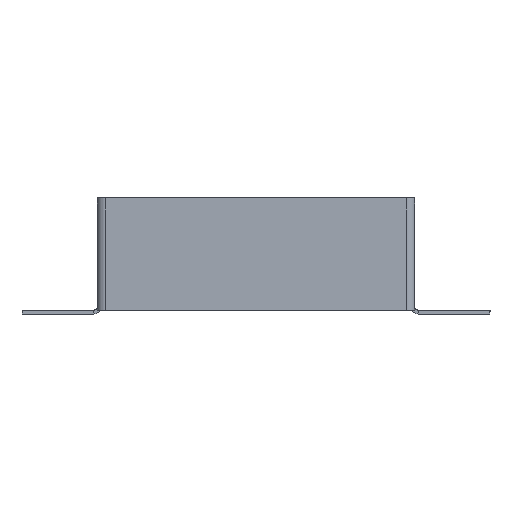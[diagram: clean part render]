
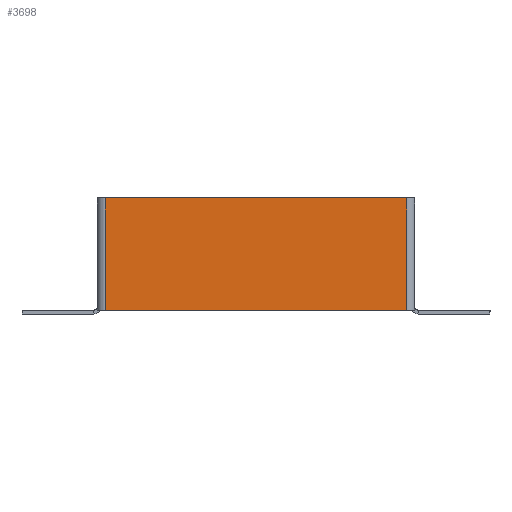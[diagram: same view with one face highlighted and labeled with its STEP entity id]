
A CAD part, front view. The second image highlights one B-rep face of the part: STEP entity #3698.
In plain terms, the highlighted planar face has unit normal (0, -1, 0).
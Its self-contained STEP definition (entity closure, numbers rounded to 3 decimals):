
#310 = CARTESIAN_POINT ( 'NONE',  ( -78., -2., 0. ) ) ;
#397 = CARTESIAN_POINT ( 'NONE',  ( -78., -2., 0. ) ) ;
#692 = VECTOR ( 'NONE', #7066, 1000. ) ;
#1152 = VECTOR ( 'NONE', #2455, 1000. ) ;
#1257 = AXIS2_PLACEMENT_3D ( 'NONE', #2064, #2626, #7269 ) ;
#1302 = VERTEX_POINT ( 'NONE', #310 ) ;
#1945 = CARTESIAN_POINT ( 'NONE',  ( -80., -2., 0. ) ) ;
#2064 = CARTESIAN_POINT ( 'NONE',  ( 0., -2., 0. ) ) ;
#2123 = CARTESIAN_POINT ( 'NONE',  ( 78., -2., -58. ) ) ;
#2125 = FACE_OUTER_BOUND ( 'NONE', #6230, .T. ) ;
#2455 = DIRECTION ( 'NONE',  ( 0., 0., 1. ) ) ;
#2626 = DIRECTION ( 'NONE',  ( 0., 1., 0. ) ) ;
#2922 = LINE ( 'NONE', #5150, #1152 ) ;
#3042 = VERTEX_POINT ( 'NONE', #7063 ) ;
#3698 = ADVANCED_FACE ( 'NONE', ( #2125 ), #5283, .F. ) ;
#4123 = VECTOR ( 'NONE', #5846, 1000. ) ;
#4148 = ORIENTED_EDGE ( 'NONE', *, *, #7299, .T. ) ;
#4227 = LINE ( 'NONE', #397, #692 ) ;
#4944 = VERTEX_POINT ( 'NONE', #6333 ) ;
#5028 = EDGE_CURVE ( 'NONE', #7035, #3042, #2922, .T. ) ;
#5085 = ORIENTED_EDGE ( 'NONE', *, *, #5028, .T. ) ;
#5150 = CARTESIAN_POINT ( 'NONE',  ( 78., -2., -58. ) ) ;
#5283 = PLANE ( 'NONE',  #1257 ) ;
#5583 = DIRECTION ( 'NONE',  ( -1., 0., 0. ) ) ;
#5793 = LINE ( 'NONE', #6201, #7139 ) ;
#5846 = DIRECTION ( 'NONE',  ( 1., 0., 0. ) ) ;
#6201 = CARTESIAN_POINT ( 'NONE',  ( -80., -2., -58. ) ) ;
#6230 = EDGE_LOOP ( 'NONE', ( #4148, #8432, #5085, #7381 ) ) ;
#6333 = CARTESIAN_POINT ( 'NONE',  ( -78., -2., -58. ) ) ;
#7035 = VERTEX_POINT ( 'NONE', #2123 ) ;
#7063 = CARTESIAN_POINT ( 'NONE',  ( 78., -2., 0. ) ) ;
#7066 = DIRECTION ( 'NONE',  ( 0., 0., -1. ) ) ;
#7139 = VECTOR ( 'NONE', #5583, 1000. ) ;
#7249 = LINE ( 'NONE', #1945, #4123 ) ;
#7269 = DIRECTION ( 'NONE',  ( 0., 0., 1. ) ) ;
#7299 = EDGE_CURVE ( 'NONE', #1302, #4944, #4227, .T. ) ;
#7381 = ORIENTED_EDGE ( 'NONE', *, *, #7503, .F. ) ;
#7503 = EDGE_CURVE ( 'NONE', #1302, #3042, #7249, .T. ) ;
#8412 = EDGE_CURVE ( 'NONE', #7035, #4944, #5793, .T. ) ;
#8432 = ORIENTED_EDGE ( 'NONE', *, *, #8412, .F. ) ;
